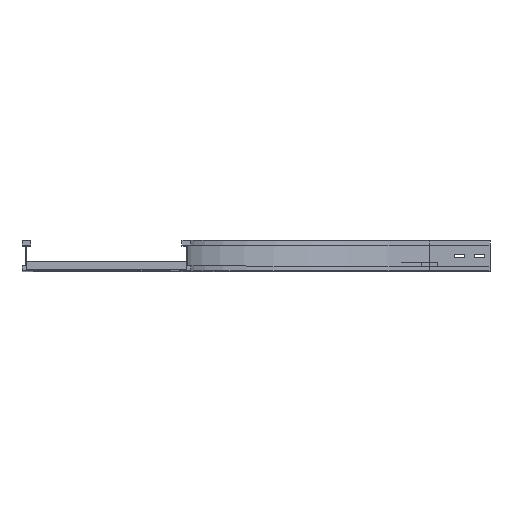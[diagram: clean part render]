
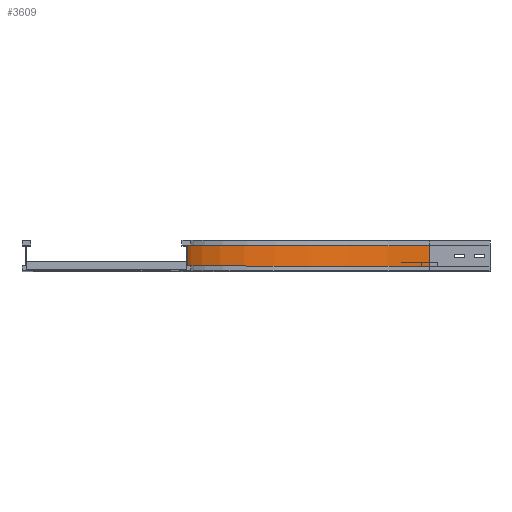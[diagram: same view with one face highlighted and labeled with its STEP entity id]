
A CAD part, top view. The second image highlights one B-rep face of the part: STEP entity #3609.
In plain terms, the highlighted cylindrical face has radius 600 mm (diameter 1200 mm), a partial arc.
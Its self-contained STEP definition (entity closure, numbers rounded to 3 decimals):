
#47 = CARTESIAN_POINT ( 'NONE',  ( 591., 63., -150. ) ) ;
#83 = LINE ( 'NONE', #1747, #2808 ) ;
#529 = ORIENTED_EDGE ( 'NONE', *, *, #3356, .T. ) ;
#680 = EDGE_CURVE ( 'NONE', #1265, #1800, #83, .T. ) ;
#699 = DIRECTION ( 'NONE',  ( -1., 0., 0. ) ) ;
#737 = EDGE_LOOP ( 'NONE', ( #1050, #1081, #529, #3270 ) ) ;
#841 = EDGE_CURVE ( 'NONE', #1800, #3092, #2413, .T. ) ;
#842 = DIRECTION ( 'NONE',  ( 0., 0., -1. ) ) ;
#883 = CYLINDRICAL_SURFACE ( 'NONE', #2008, 600. ) ;
#925 = DIRECTION ( 'NONE',  ( 0., 1., 0. ) ) ;
#1050 = ORIENTED_EDGE ( 'NONE', *, *, #841, .F. ) ;
#1081 = ORIENTED_EDGE ( 'NONE', *, *, #680, .F. ) ;
#1119 = FACE_OUTER_BOUND ( 'NONE', #737, .T. ) ;
#1144 = DIRECTION ( 'NONE',  ( 0., -1., 0. ) ) ;
#1265 = VERTEX_POINT ( 'NONE', #3040 ) ;
#1416 = VECTOR ( 'NONE', #1647, 1000. ) ;
#1443 = CARTESIAN_POINT ( 'NONE',  ( -9., 63., -150. ) ) ;
#1647 = DIRECTION ( 'NONE',  ( 0., 1., 0. ) ) ;
#1694 = DIRECTION ( 'NONE',  ( 0., -1., 0. ) ) ;
#1737 = CARTESIAN_POINT ( 'NONE',  ( 591., 63., -750. ) ) ;
#1747 = CARTESIAN_POINT ( 'NONE',  ( -9., 12., -150. ) ) ;
#1800 = VERTEX_POINT ( 'NONE', #1443 ) ;
#1922 = CARTESIAN_POINT ( 'NONE',  ( 591., 12., -750. ) ) ;
#1950 = CARTESIAN_POINT ( 'NONE',  ( 591., 0., -150. ) ) ;
#1962 = VERTEX_POINT ( 'NONE', #2621 ) ;
#2001 = DIRECTION ( 'NONE',  ( -1., 0., 0. ) ) ;
#2008 = AXIS2_PLACEMENT_3D ( 'NONE', #1950, #1694, #842 ) ;
#2148 = LINE ( 'NONE', #1922, #1416 ) ;
#2413 = CIRCLE ( 'NONE', #2766, 600. ) ;
#2565 = EDGE_CURVE ( 'NONE', #1962, #3092, #2148, .T. ) ;
#2621 = CARTESIAN_POINT ( 'NONE',  ( 591., 12., -750. ) ) ;
#2653 = DIRECTION ( 'NONE',  ( 0., -1., 0. ) ) ;
#2766 = AXIS2_PLACEMENT_3D ( 'NONE', #47, #1144, #2001 ) ;
#2808 = VECTOR ( 'NONE', #925, 1000. ) ;
#2925 = CARTESIAN_POINT ( 'NONE',  ( 591., 12., -150. ) ) ;
#2946 = CIRCLE ( 'NONE', #3063, 600. ) ;
#3040 = CARTESIAN_POINT ( 'NONE',  ( -9., 12., -150. ) ) ;
#3063 = AXIS2_PLACEMENT_3D ( 'NONE', #2925, #2653, #699 ) ;
#3092 = VERTEX_POINT ( 'NONE', #1737 ) ;
#3270 = ORIENTED_EDGE ( 'NONE', *, *, #2565, .T. ) ;
#3356 = EDGE_CURVE ( 'NONE', #1265, #1962, #2946, .T. ) ;
#3609 = ADVANCED_FACE ( 'NONE', ( #1119 ), #883, .F. ) ;
